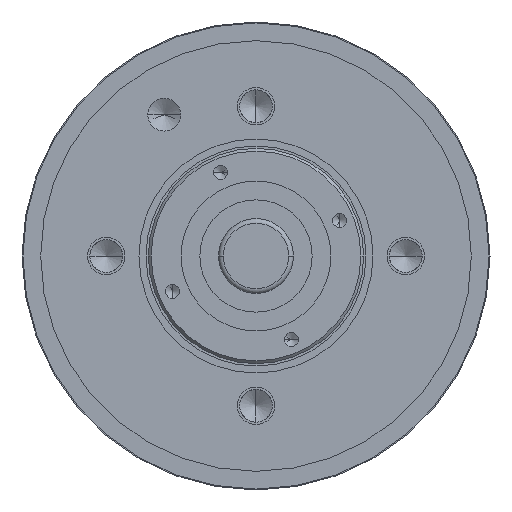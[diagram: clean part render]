
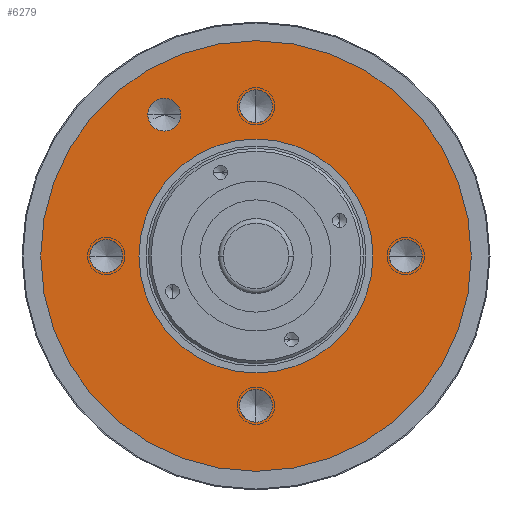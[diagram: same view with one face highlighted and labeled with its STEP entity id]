
A CAD part, left-side view. The second image highlights one B-rep face of the part: STEP entity #6279.
In plain terms, the highlighted planar face has unit normal (-1, 0, 0).
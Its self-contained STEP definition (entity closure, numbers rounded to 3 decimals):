
#1514=CARTESIAN_POINT('',(0.,0.,0.));
#1515=DIRECTION('',(1.,0.,0.));
#1516=DIRECTION('',(0.,1.,0.));
#1517=AXIS2_PLACEMENT_3D('',#1514,#1515,#1516);
#1519=CARTESIAN_POINT('',(0.,0.,0.));
#1520=DIRECTION('',(1.,0.,0.));
#1521=DIRECTION('',(0.,-1.,0.));
#1522=AXIS2_PLACEMENT_3D('',#1519,#1520,#1521);
#1524=CARTESIAN_POINT('',(0.,0.,0.));
#1525=DIRECTION('',(-1.,0.,0.));
#1526=DIRECTION('',(0.,1.,0.));
#1527=AXIS2_PLACEMENT_3D('',#1524,#1525,#1526);
#1529=CARTESIAN_POINT('',(0.,0.,0.));
#1530=DIRECTION('',(-1.,0.,0.));
#1531=DIRECTION('',(0.,-1.,0.));
#1532=AXIS2_PLACEMENT_3D('',#1529,#1530,#1531);
#1534=CARTESIAN_POINT('',(0.,16.,0.));
#1535=DIRECTION('',(-1.,0.,0.));
#1536=DIRECTION('',(0.,1.,0.));
#1537=AXIS2_PLACEMENT_3D('',#1534,#1535,#1536);
#1539=CARTESIAN_POINT('',(0.,16.,0.));
#1540=DIRECTION('',(-1.,0.,0.));
#1541=DIRECTION('',(0.,-1.,0.));
#1542=AXIS2_PLACEMENT_3D('',#1539,#1540,#1541);
#1544=CARTESIAN_POINT('',(0.,0.,16.));
#1545=DIRECTION('',(-1.,0.,0.));
#1546=DIRECTION('',(0.,0.,1.));
#1547=AXIS2_PLACEMENT_3D('',#1544,#1545,#1546);
#1549=CARTESIAN_POINT('',(0.,0.,16.));
#1550=DIRECTION('',(-1.,0.,0.));
#1551=DIRECTION('',(0.,0.,-1.));
#1552=AXIS2_PLACEMENT_3D('',#1549,#1550,#1551);
#1554=CARTESIAN_POINT('',(0.,-16.,0.));
#1555=DIRECTION('',(-1.,0.,0.));
#1556=DIRECTION('',(0.,-1.,0.));
#1557=AXIS2_PLACEMENT_3D('',#1554,#1555,#1556);
#1559=CARTESIAN_POINT('',(0.,-16.,0.));
#1560=DIRECTION('',(-1.,0.,0.));
#1561=DIRECTION('',(0.,1.,0.));
#1562=AXIS2_PLACEMENT_3D('',#1559,#1560,#1561);
#1564=CARTESIAN_POINT('',(0.,0.,-16.));
#1565=DIRECTION('',(-1.,0.,0.));
#1566=DIRECTION('',(0.,0.,-1.));
#1567=AXIS2_PLACEMENT_3D('',#1564,#1565,#1566);
#1569=CARTESIAN_POINT('',(0.,0.,-16.));
#1570=DIRECTION('',(-1.,0.,0.));
#1571=DIRECTION('',(0.,0.,1.));
#1572=AXIS2_PLACEMENT_3D('',#1569,#1570,#1571);
#1574=CARTESIAN_POINT('',(0.,9.804,15.096));
#1575=DIRECTION('',(-1.,0.,0.));
#1576=DIRECTION('',(0.,1.,0.));
#1577=AXIS2_PLACEMENT_3D('',#1574,#1575,#1576);
#1579=CARTESIAN_POINT('',(0.,9.804,15.096));
#1580=DIRECTION('',(-1.,0.,0.));
#1581=DIRECTION('',(0.,-1.,0.));
#1582=AXIS2_PLACEMENT_3D('',#1579,#1580,#1581);
#3280=CARTESIAN_POINT('',(0.,23.,0.));
#3282=VERTEX_POINT('',#3280);
#3285=CARTESIAN_POINT('',(0.,-23.,0.));
#3287=VERTEX_POINT('',#3285);
#3288=CARTESIAN_POINT('',(0.,17.75,0.));
#3289=CARTESIAN_POINT('',(0.,14.25,0.));
#3290=VERTEX_POINT('',#3288);
#3291=VERTEX_POINT('',#3289);
#3292=CARTESIAN_POINT('',(0.,0.,17.75));
#3293=CARTESIAN_POINT('',(0.,0.,14.25));
#3294=VERTEX_POINT('',#3292);
#3295=VERTEX_POINT('',#3293);
#3296=CARTESIAN_POINT('',(0.,-17.75,0.));
#3297=CARTESIAN_POINT('',(0.,-14.25,0.));
#3298=VERTEX_POINT('',#3296);
#3299=VERTEX_POINT('',#3297);
#3300=CARTESIAN_POINT('',(0.,0.,-17.75));
#3301=CARTESIAN_POINT('',(0.,0.,-14.25));
#3302=VERTEX_POINT('',#3300);
#3303=VERTEX_POINT('',#3301);
#3304=CARTESIAN_POINT('',(0.,11.554,15.096));
#3305=CARTESIAN_POINT('',(0.,8.054,15.096));
#3306=VERTEX_POINT('',#3304);
#3307=VERTEX_POINT('',#3305);
#3309=CARTESIAN_POINT('',(0.,12.5,0.));
#3311=VERTEX_POINT('',#3309);
#3312=CARTESIAN_POINT('',(0.,-12.5,0.));
#3314=VERTEX_POINT('',#3312);
#6234=CARTESIAN_POINT('',(0.,0.,0.));
#6235=DIRECTION('',(1.,0.,0.));
#6236=DIRECTION('',(0.,-1.,0.));
#6237=AXIS2_PLACEMENT_3D('',#6234,#6235,#6236);
#6238=PLANE('',#6237);
#6239=ORIENTED_EDGE('',*,*,#6229,.T.);
#6240=ORIENTED_EDGE('',*,*,#6213,.T.);
#6241=EDGE_LOOP('',(#6239,#6240));
#6242=FACE_OUTER_BOUND('',#6241,.F.);
#6244=ORIENTED_EDGE('',*,*,#6243,.T.);
#6246=ORIENTED_EDGE('',*,*,#6245,.T.);
#6247=EDGE_LOOP('',(#6244,#6246));
#6248=FACE_BOUND('',#6247,.F.);
#6250=ORIENTED_EDGE('',*,*,#6249,.T.);
#6252=ORIENTED_EDGE('',*,*,#6251,.T.);
#6253=EDGE_LOOP('',(#6250,#6252));
#6254=FACE_BOUND('',#6253,.F.);
#6256=ORIENTED_EDGE('',*,*,#6255,.T.);
#6258=ORIENTED_EDGE('',*,*,#6257,.T.);
#6259=EDGE_LOOP('',(#6256,#6258));
#6260=FACE_BOUND('',#6259,.F.);
#6262=ORIENTED_EDGE('',*,*,#6261,.T.);
#6264=ORIENTED_EDGE('',*,*,#6263,.T.);
#6265=EDGE_LOOP('',(#6262,#6264));
#6266=FACE_BOUND('',#6265,.F.);
#6268=ORIENTED_EDGE('',*,*,#6267,.T.);
#6270=ORIENTED_EDGE('',*,*,#6269,.T.);
#6271=EDGE_LOOP('',(#6268,#6270));
#6272=FACE_BOUND('',#6271,.F.);
#6274=ORIENTED_EDGE('',*,*,#6273,.T.);
#6276=ORIENTED_EDGE('',*,*,#6275,.T.);
#6277=EDGE_LOOP('',(#6274,#6276));
#6278=FACE_BOUND('',#6277,.F.);
#6279=ADVANCED_FACE('',(#6242,#6248,#6254,#6260,#6266,#6272,#6278),#6238,.F.);
#1518=CIRCLE('',#1517,23.);
#1523=CIRCLE('',#1522,23.);
#1528=CIRCLE('',#1527,12.5);
#1533=CIRCLE('',#1532,12.5);
#1538=CIRCLE('',#1537,1.75);
#1543=CIRCLE('',#1542,1.75);
#1548=CIRCLE('',#1547,1.75);
#1553=CIRCLE('',#1552,1.75);
#1558=CIRCLE('',#1557,1.75);
#1563=CIRCLE('',#1562,1.75);
#1568=CIRCLE('',#1567,1.75);
#1573=CIRCLE('',#1572,1.75);
#1578=CIRCLE('',#1577,1.75);
#1583=CIRCLE('',#1582,1.75);
#6213=EDGE_CURVE('',#3287,#3282,#1523,.T.);
#6229=EDGE_CURVE('',#3282,#3287,#1518,.T.);
#6243=EDGE_CURVE('',#3311,#3314,#1528,.T.);
#6245=EDGE_CURVE('',#3314,#3311,#1533,.T.);
#6249=EDGE_CURVE('',#3290,#3291,#1538,.T.);
#6251=EDGE_CURVE('',#3291,#3290,#1543,.T.);
#6255=EDGE_CURVE('',#3294,#3295,#1548,.T.);
#6257=EDGE_CURVE('',#3295,#3294,#1553,.T.);
#6261=EDGE_CURVE('',#3298,#3299,#1558,.T.);
#6263=EDGE_CURVE('',#3299,#3298,#1563,.T.);
#6267=EDGE_CURVE('',#3302,#3303,#1568,.T.);
#6269=EDGE_CURVE('',#3303,#3302,#1573,.T.);
#6273=EDGE_CURVE('',#3306,#3307,#1578,.T.);
#6275=EDGE_CURVE('',#3307,#3306,#1583,.T.);
